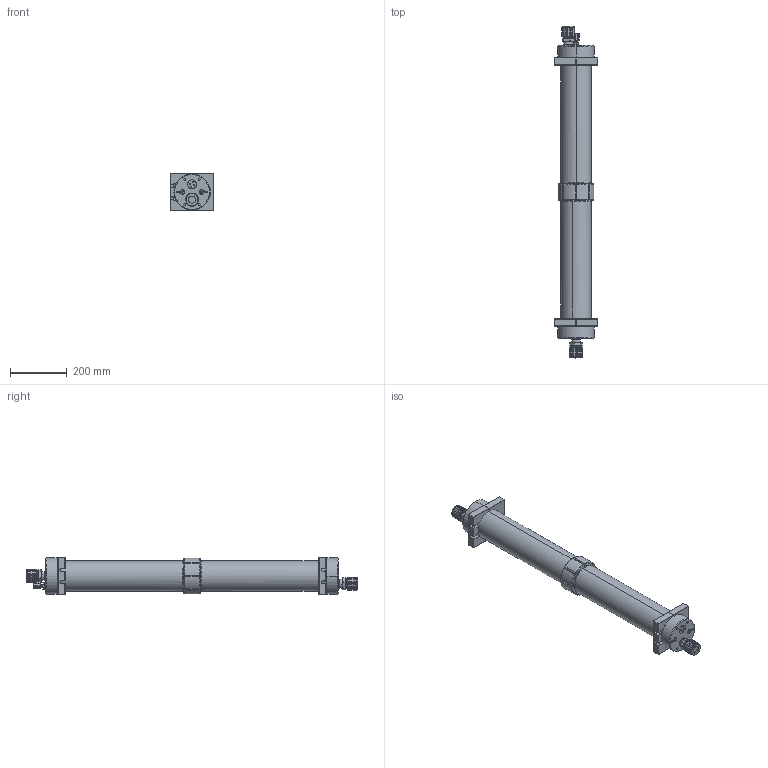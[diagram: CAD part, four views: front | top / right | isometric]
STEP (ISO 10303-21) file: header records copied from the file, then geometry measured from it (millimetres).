
FILE_DESCRIPTION (( 'STEP AP214' ), '1' );
FILE_NAME ('CPA-04A06L-F12F04.STEP', '2014-06-27T18:10:15', ( '' ), ( '' ), 'SwSTEP 2.0', 'SolidWorks 2012', '' );
FILE_SCHEMA (( 'AUTOMOTIVE_DESIGN' ));
Length unit declared in the file: inch
Products named in the file (1): CPA-04A06L-F12F04
Bounding box: 152.4 x 1170.38 x 133.35 mm (x, y, z)
Volume: 10645963.4 mm3; surface area: 500325.2 mm2
Topology: 1 solids, 1 shells, 889 faces, 2258 edges, 1392 vertices
Faces by surface type: plane 375, cylinder 294, cone 182, torus 26, bspline 12
Entity records: 57511 total; most frequent: CARTESIAN_POINT 30538, DIRECTION 4526, ORIENTED_EDGE 4516, EDGE_CURVE 2258, AXIS2_PLACEMENT_3D 1710, VERTEX_POINT 1392, LINE 1106, VECTOR 1106
